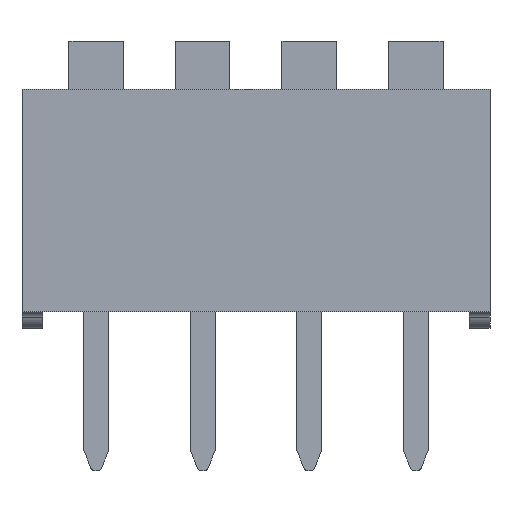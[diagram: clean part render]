
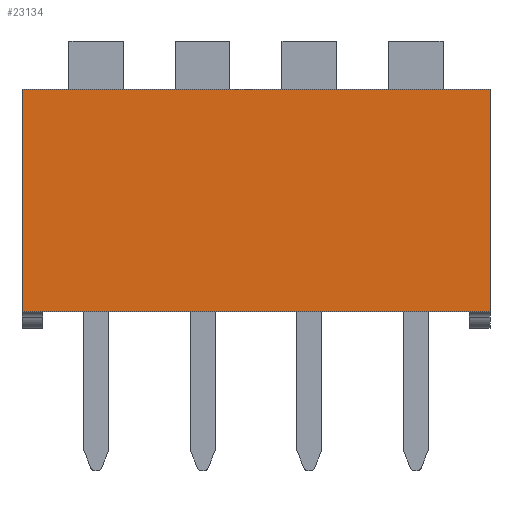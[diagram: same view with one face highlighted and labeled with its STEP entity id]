
A CAD part, front view. The second image highlights one B-rep face of the part: STEP entity #23134.
In plain terms, the highlighted planar face has unit normal (0, -1, 0).
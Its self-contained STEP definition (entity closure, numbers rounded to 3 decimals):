
#12916 = PLANE('',#12917);
#12917 = AXIS2_PLACEMENT_3D('',#12918,#12919,#12920);
#12918 = CARTESIAN_POINT('',(-1.77,8.76,0.4));
#12919 = DIRECTION('',(-1.,0.,0.));
#12920 = DIRECTION('',(0.,-1.,0.));
#13063 = VERTEX_POINT('',#13064);
#13064 = CARTESIAN_POINT('',(-1.77,-1.14,0.4));
#13078 = PLANE('',#13079);
#13079 = AXIS2_PLACEMENT_3D('',#13080,#13081,#13082);
#13080 = CARTESIAN_POINT('',(3.81,3.81,0.4));
#13081 = DIRECTION('',(0.,0.,1.));
#13082 = DIRECTION('',(1.,0.,0.));
#13090 = EDGE_CURVE('',#13063,#13091,#13093,.T.);
#13091 = VERTEX_POINT('',#13092);
#13092 = CARTESIAN_POINT('',(-1.77,-1.14,5.7));
#13093 = SURFACE_CURVE('',#13094,(#13098,#13105),.PCURVE_S1.);
#13094 = LINE('',#13095,#13096);
#13095 = CARTESIAN_POINT('',(-1.77,-1.14,0.4));
#13096 = VECTOR('',#13097,1.);
#13097 = DIRECTION('',(0.,0.,1.));
#13098 = PCURVE('',#12916,#13099);
#13099 = DEFINITIONAL_REPRESENTATION('',(#13100),#13104);
#13100 = LINE('',#13101,#13102);
#13101 = CARTESIAN_POINT('',(9.9,0.));
#13102 = VECTOR('',#13103,1.);
#13103 = DIRECTION('',(0.,1.));
#13104 = ( GEOMETRIC_REPRESENTATION_CONTEXT(2) 
PARAMETRIC_REPRESENTATION_CONTEXT() REPRESENTATION_CONTEXT('2D SPACE',''
  ) );
#13105 = PCURVE('',#13106,#13111);
#13106 = PLANE('',#13107);
#13107 = AXIS2_PLACEMENT_3D('',#13108,#13109,#13110);
#13108 = CARTESIAN_POINT('',(-1.77,-1.14,0.4));
#13109 = DIRECTION('',(0.,-1.,0.));
#13110 = DIRECTION('',(1.,0.,0.));
#13111 = DEFINITIONAL_REPRESENTATION('',(#13112),#13116);
#13112 = LINE('',#13113,#13114);
#13113 = CARTESIAN_POINT('',(0.,0.));
#13114 = VECTOR('',#13115,1.);
#13115 = DIRECTION('',(0.,1.));
#13116 = ( GEOMETRIC_REPRESENTATION_CONTEXT(2) 
PARAMETRIC_REPRESENTATION_CONTEXT() REPRESENTATION_CONTEXT('2D SPACE',''
  ) );
#13134 = PLANE('',#13135);
#13135 = AXIS2_PLACEMENT_3D('',#13136,#13137,#13138);
#13136 = CARTESIAN_POINT('',(3.81,3.81,5.7));
#13137 = DIRECTION('',(0.,0.,1.));
#13138 = DIRECTION('',(1.,0.,0.));
#14582 = EDGE_CURVE('',#13091,#14583,#14585,.T.);
#14583 = VERTEX_POINT('',#14584);
#14584 = CARTESIAN_POINT('',(9.39,-1.14,5.7));
#14585 = SURFACE_CURVE('',#14586,(#14590,#14597),.PCURVE_S1.);
#14586 = LINE('',#14587,#14588);
#14587 = CARTESIAN_POINT('',(9.39,-1.14,5.7));
#14588 = VECTOR('',#14589,1.);
#14589 = DIRECTION('',(1.,0.,0.));
#14590 = PCURVE('',#13134,#14591);
#14591 = DEFINITIONAL_REPRESENTATION('',(#14592),#14596);
#14592 = LINE('',#14593,#14594);
#14593 = CARTESIAN_POINT('',(5.58,-4.95));
#14594 = VECTOR('',#14595,1.);
#14595 = DIRECTION('',(1.,0.));
#14596 = ( GEOMETRIC_REPRESENTATION_CONTEXT(2) 
PARAMETRIC_REPRESENTATION_CONTEXT() REPRESENTATION_CONTEXT('2D SPACE',''
  ) );
#14597 = PCURVE('',#13106,#14598);
#14598 = DEFINITIONAL_REPRESENTATION('',(#14599),#14603);
#14599 = LINE('',#14600,#14601);
#14600 = CARTESIAN_POINT('',(11.16,5.3));
#14601 = VECTOR('',#14602,1.);
#14602 = DIRECTION('',(1.,0.));
#14603 = ( GEOMETRIC_REPRESENTATION_CONTEXT(2) 
PARAMETRIC_REPRESENTATION_CONTEXT() REPRESENTATION_CONTEXT('2D SPACE',''
  ) );
#14621 = PLANE('',#14622);
#14622 = AXIS2_PLACEMENT_3D('',#14623,#14624,#14625);
#14623 = CARTESIAN_POINT('',(9.39,-1.14,0.4));
#14624 = DIRECTION('',(1.,0.,0.));
#14625 = DIRECTION('',(0.,1.,0.));
#20446 = VERTEX_POINT('',#20447);
#20447 = CARTESIAN_POINT('',(9.39,-1.14,0.4));
#20468 = EDGE_CURVE('',#20446,#13063,#20469,.T.);
#20469 = SURFACE_CURVE('',#20470,(#20474,#20481),.PCURVE_S1.);
#20470 = LINE('',#20471,#20472);
#20471 = CARTESIAN_POINT('',(9.39,-1.14,0.4));
#20472 = VECTOR('',#20473,1.);
#20473 = DIRECTION('',(-1.,0.,0.));
#20474 = PCURVE('',#13078,#20475);
#20475 = DEFINITIONAL_REPRESENTATION('',(#20476),#20480);
#20476 = LINE('',#20477,#20478);
#20477 = CARTESIAN_POINT('',(5.58,-4.95));
#20478 = VECTOR('',#20479,1.);
#20479 = DIRECTION('',(-1.,0.));
#20480 = ( GEOMETRIC_REPRESENTATION_CONTEXT(2) 
PARAMETRIC_REPRESENTATION_CONTEXT() REPRESENTATION_CONTEXT('2D SPACE',''
  ) );
#20481 = PCURVE('',#13106,#20482);
#20482 = DEFINITIONAL_REPRESENTATION('',(#20483),#20487);
#20483 = LINE('',#20484,#20485);
#20484 = CARTESIAN_POINT('',(11.16,0.));
#20485 = VECTOR('',#20486,1.);
#20486 = DIRECTION('',(-1.,0.));
#20487 = ( GEOMETRIC_REPRESENTATION_CONTEXT(2) 
PARAMETRIC_REPRESENTATION_CONTEXT() REPRESENTATION_CONTEXT('2D SPACE',''
  ) );
#23100 = EDGE_CURVE('',#20446,#14583,#23101,.T.);
#23101 = SURFACE_CURVE('',#23102,(#23106,#23113),.PCURVE_S1.);
#23102 = LINE('',#23103,#23104);
#23103 = CARTESIAN_POINT('',(9.39,-1.14,0.4));
#23104 = VECTOR('',#23105,1.);
#23105 = DIRECTION('',(0.,0.,1.));
#23106 = PCURVE('',#14621,#23107);
#23107 = DEFINITIONAL_REPRESENTATION('',(#23108),#23112);
#23108 = LINE('',#23109,#23110);
#23109 = CARTESIAN_POINT('',(0.,0.));
#23110 = VECTOR('',#23111,1.);
#23111 = DIRECTION('',(0.,1.));
#23112 = ( GEOMETRIC_REPRESENTATION_CONTEXT(2) 
PARAMETRIC_REPRESENTATION_CONTEXT() REPRESENTATION_CONTEXT('2D SPACE',''
  ) );
#23113 = PCURVE('',#13106,#23114);
#23114 = DEFINITIONAL_REPRESENTATION('',(#23115),#23119);
#23115 = LINE('',#23116,#23117);
#23116 = CARTESIAN_POINT('',(11.16,0.));
#23117 = VECTOR('',#23118,1.);
#23118 = DIRECTION('',(0.,1.));
#23119 = ( GEOMETRIC_REPRESENTATION_CONTEXT(2) 
PARAMETRIC_REPRESENTATION_CONTEXT() REPRESENTATION_CONTEXT('2D SPACE',''
  ) );
#23134 = ADVANCED_FACE('',(#23135),#13106,.T.);
#23135 = FACE_BOUND('',#23136,.T.);
#23136 = EDGE_LOOP('',(#23137,#23138,#23139,#23140));
#23137 = ORIENTED_EDGE('',*,*,#20468,.F.);
#23138 = ORIENTED_EDGE('',*,*,#23100,.T.);
#23139 = ORIENTED_EDGE('',*,*,#14582,.F.);
#23140 = ORIENTED_EDGE('',*,*,#13090,.F.);
